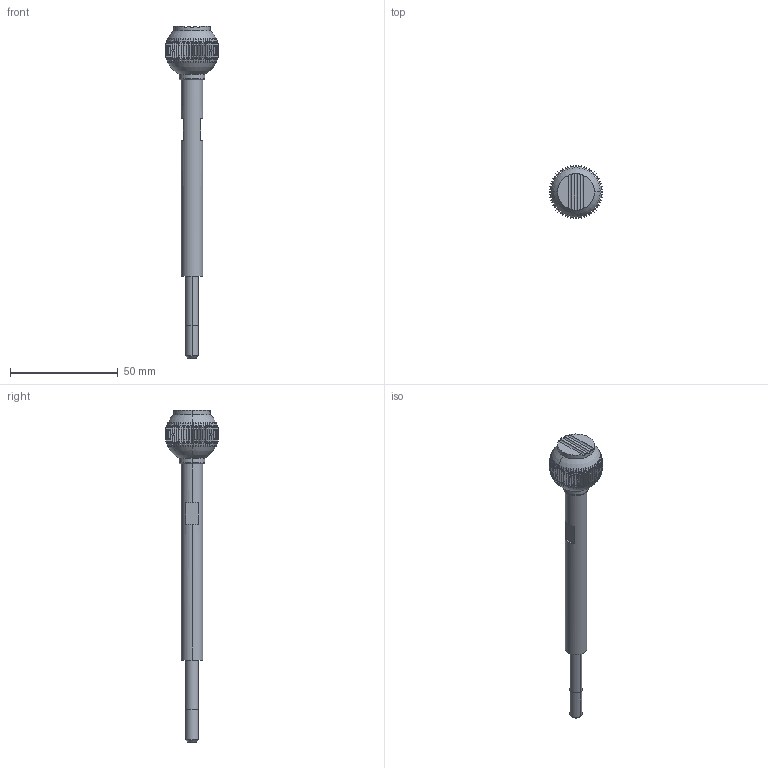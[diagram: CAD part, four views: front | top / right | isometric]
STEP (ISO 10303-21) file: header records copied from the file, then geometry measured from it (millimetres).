
FILE_DESCRIPTION((''),'2;1');
FILE_NAME('2030593','2021-02-26T13:57:34',('j.rink'),(''),'CREO PARAMETRIC BY PTC INC, 2019292','CREO PARAMETRIC BY PTC INC, 2019292','');
FILE_SCHEMA(('AUTOMOTIVE_DESIGN { 1 0 10303 214 1 1 1 1 }'));
Length unit declared in the file: millimetre
Products named in the file (1): 2030593
Bounding box: 25 x 25 x 154 mm (x, y, z)
Volume: 16278 mm3; surface area: 6373.2 mm2
Topology: 1 solids, 1 shells, 155 faces, 379 edges, 230 vertices
Faces by surface type: plane 134, cylinder 13, sphere 4, torus 2, cone 2
Entity records: 6088 total; most frequent: DIRECTION 969, CARTESIAN_POINT 861, ORIENTED_EDGE 756, AXIS2_PLACEMENT_3D 440, PRESENTATION_STYLE_ASSIGNMENT 381, STYLED_ITEM 381, CURVE_STYLE 380, EDGE_CURVE 378
